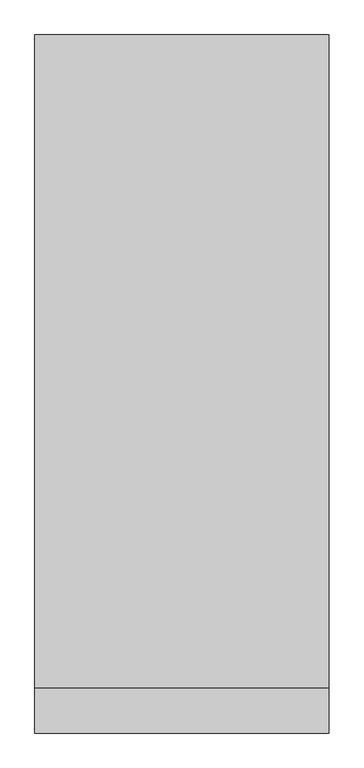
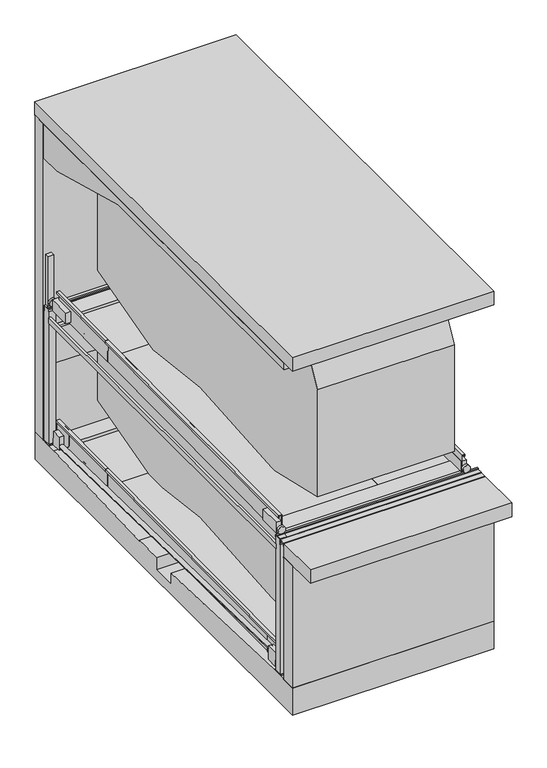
"""IFC4 building model written with IfcOpenShell, lengths in millimetres: proxy geometry, TrendVario_6100 : TrendVario_6100."""

from ifc_helpers import new_model, si_unit, point, frame, frame_2d, origin, place, context, project, spatial, polyline, circle_curve, trimmed, segment, composite_curve, outline, extrude, faceted_brep, source, transform, mapped, element, save
from ifc_brep_helpers import plane_surface, cylinder_surface, advanced_brep


def generic_models_6f618759(model_context):
    return source(origin(), model_context, "Body", "SolidModel", [
        extrude(outline(polyline([(0.0, -1500.0), (0.0, 0.0), (1170.0, 0.0), (1170.0, -1500.0), (0.0, -1500.0)])), frame((100.0, 4411.8759587, 12.9805913), z_axis=(0.0, -0.008726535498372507, 0.9999619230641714), x_axis=(0.0, 0.9999619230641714, 0.008726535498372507)), (0.0, 0.0, 1.0), 8.0),
        extrude(outline(polyline([(5343.3866911, 73.1117424), (5581.3776288, 75.1886579), (5581.7615964, 31.1903332), (5578.7617106, 31.1641536), (5578.4039226, 72.1625925), (5346.4127565, 70.1380362), (5346.7705444, 29.1395974), (5343.7706587, 29.1134178), (5343.3866911, 73.1117424)])), frame((100.0, 0.0, 0.0), z_axis=(1.0, 0.0, 0.0), x_axis=(0.0, 1.0, 0.0)), (0.0, 0.0, 1.0), 1500.0),
        extrude(outline(polyline([(320.0, 0.0), (320.0, -43.0), (290.0, -43.0), (290.0, -40.0), (317.0, -40.0), (317.0, -3.0), (0.0, -3.0), (0.0, 52.0), (47.0, 52.0), (47.0, 89.0), (49.9999999, 89.0), (49.9999999, 49.0), (2.9999999, 49.0), (2.9999999, 0.0), (320.0, 0.0)])), frame((100.0, 4412.3122854, -37.0175048), z_axis=(0.0, 0.9999619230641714, 0.008726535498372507), x_axis=(0.0, -0.008726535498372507, 0.9999619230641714)), (0.0, 0.0, 1.0), 1170.0),
        extrude(outline(composite_curve([segment(trimmed(circle_curve(frame_2d((-273.0, 50.2890841)), 6.0), [point((-273.0, 44.2890841))], [point((-273.0, 56.2890841))], False, "CARTESIAN"), True, "CONTINUOUS"), segment(trimmed(circle_curve(frame_2d((-273.0, 50.2890841)), 6.0), [point((-273.0, 56.2890841))], [point((-273.0, 44.2890841))], False, "CARTESIAN"), True, "CONTINUOUS")], self_intersect=False)), frame((0.0, 5774.7632152, 0.0), z_axis=(0.0, 1.0, 0.0), x_axis=(0.0, 0.0, 1.0)), (0.0, 0.0, 1.0), 150.0),
        extrude(outline(composite_curve([segment(trimmed(circle_curve(frame_2d((-273.0, 2650.0)), 6.0), [point((-267.0, 2650.0))], [point((-279.0, 2650.0))], False, "CARTESIAN"), True, "CONTINUOUS"), segment(trimmed(circle_curve(frame_2d((-273.0, 2650.0)), 6.0), [point((-279.0, 2650.0))], [point((-267.0, 2650.0))], False, "CARTESIAN"), True, "CONTINUOUS")], self_intersect=False)), frame((0.0, 5769.5664345, 0.0), z_axis=(0.0, 1.0, 0.0), x_axis=(0.0, 0.0, 1.0)), (0.0, 0.0, 1.0), 150.0),
        extrude(outline(composite_curve([segment(trimmed(circle_curve(frame_2d((-273.0, 2650.0)), 6.0), [point((-267.0, 2650.0))], [point((-279.0, 2650.0))], False, "CARTESIAN"), True, "CONTINUOUS"), segment(trimmed(circle_curve(frame_2d((-273.0, 2650.0)), 6.0), [point((-279.0, 2650.0))], [point((-267.0, 2650.0))], False, "CARTESIAN"), True, "CONTINUOUS")], self_intersect=False)), frame((0.0, -50.0, 0.0), z_axis=(0.0, 1.0, 0.0), x_axis=(0.0, 0.0, 1.0)), (0.0, 0.0, 1.0), 150.0),
        extrude(outline(composite_curve([segment(trimmed(circle_curve(frame_2d((-273.0, 50.0)), 6.0), [point((-273.0, 56.0))], [point((-273.0, 44.0))], False, "CARTESIAN"), True, "CONTINUOUS"), segment(trimmed(circle_curve(frame_2d((-273.0, 50.0)), 6.0), [point((-273.0, 44.0))], [point((-273.0, 56.0))], False, "CARTESIAN"), True, "CONTINUOUS")], self_intersect=False)), frame((0.0, -50.0, 0.0), z_axis=(0.0, 1.0, 0.0), x_axis=(0.0, 0.0, 1.0)), (0.0, 0.0, 1.0), 150.0),
        extrude(outline(composite_curve([segment(trimmed(circle_curve(frame_2d((145.0, 150.0)), 6.0), [point((139.0, 150.0))], [point((151.0, 150.0))], False, "CARTESIAN"), True, "CONTINUOUS"), segment(trimmed(circle_curve(frame_2d((145.0, 150.0)), 6.0), [point((151.0, 150.0))], [point((139.0, 150.0))], False, "CARTESIAN"), True, "CONTINUOUS")], self_intersect=False)), frame((0.0, 0.0, -2150.0), z_axis=(0.0, 0.0, 1.0), x_axis=(1.0, 0.0, 0.0)), (0.0, 0.0, 1.0), 150.0),
        extrude(outline(composite_curve([segment(trimmed(circle_curve(frame_2d((2555.0, 150.0)), 6.0), [point((2549.0, 150.0))], [point((2561.0, 150.0))], False, "CARTESIAN"), True, "CONTINUOUS"), segment(trimmed(circle_curve(frame_2d((2555.0, 150.0)), 6.0), [point((2561.0, 150.0))], [point((2549.0, 150.0))], False, "CARTESIAN"), True, "CONTINUOUS")], self_intersect=False)), frame((0.0, 0.0, -2150.0), z_axis=(0.0, 0.0, 1.0), x_axis=(1.0, 0.0, 0.0)), (0.0, 0.0, 1.0), 150.0),
        extrude(outline(composite_curve([segment(trimmed(circle_curve(frame_2d((2555.0, 5722.5588178)), 6.0), [point((2549.0, 5722.5588178))], [point((2561.0, 5722.5588178))], False, "CARTESIAN"), True, "CONTINUOUS"), segment(trimmed(circle_curve(frame_2d((2555.0, 5722.5588178)), 6.0), [point((2561.0, 5722.5588178))], [point((2549.0, 5722.5588178))], False, "CARTESIAN"), True, "CONTINUOUS")], self_intersect=False)), frame((0.0, 0.0, -2150.0), z_axis=(0.0, 0.0, 1.0), x_axis=(1.0, 0.0, 0.0)), (0.0, 0.0, 1.0), 150.0),
        extrude(outline(polyline([(320.0, 0.0), (3.0, 0.0), (3.0, -49.0), (49.9999999, -49.0), (49.9999999, -89.0), (47.0, -89.0), (47.0, -52.0), (0.0, -52.0), (0.0, 3.0), (317.0, 3.0), (317.0, 40.0), (290.0, 40.0), (290.0, 43.0), (320.0, 43.0), (320.0, 0.0)])), frame((2600.0, 237.7412679, -1960.4094164), z_axis=(0.0, 0.9999619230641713, 0.008726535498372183), x_axis=(0.0, -0.008726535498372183, 0.9999619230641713)), (0.0, 0.0, 1.0), 4178.0),
        extrude(outline(polyline([(1941.867435, 0.0), (1941.867435, -1000.0), (-1962.132565, -1000.0), (-1962.132565, 0.0), (1941.867435, 0.0)])), frame((1600.0, 2473.3523611, -1890.89763), z_axis=(0.0, -0.008726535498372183, 0.9999619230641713), x_axis=(0.0, 0.9999619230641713, 0.008726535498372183)), (0.0, 0.0, 1.0), 8.0),
        extrude(outline(polyline([(0.0, -136.0), (0.0, 0.0), (67.0, 0.0), (67.0, -136.0), (0.0, -136.0)])), frame((20.0, 5591.7992407, -1943.6900531), z_axis=(0.0, -0.008726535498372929, 0.9999619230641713), x_axis=(1.0, 0.0, 0.0)), (0.0, 0.0, 1.0), 195.0),
        extrude(outline(polyline([(5613.3985296, -1668.4910874), (5616.1473883, -1983.4790932), (5481.1525287, -1984.6571755), (5344.9795868, -1850.8403982), (5342.7979529, -1600.8499174), (5582.7888144, -1598.7555489), (5583.3996719, -1668.7528835), (5613.3985296, -1668.4910874)])), frame((87.0, 0.0, 0.0), z_axis=(1.0, 0.0, 0.0), x_axis=(0.0, 1.0, 0.0)), (0.0, 0.0, 1.0), 10.0),
        extrude(outline(polyline([(0.0, -1500.0), (0.0, 0.0), (1170.0, 0.0), (1170.0, -1500.0), (0.0, -1500.0)])), frame((100.0, 4415.1458963, -1873.955505), z_axis=(0.0, -0.008726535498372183, 0.9999619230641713), x_axis=(0.0, 0.9999619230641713, 0.008726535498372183)), (0.0, 0.0, 1.0), 8.0),
        extrude(outline(polyline([(5346.6566288, -1813.8243539), (5584.6475665, -1811.7474385), (5585.031534, -1855.7457631), (5582.0316483, -1855.7719427), (5581.6738603, -1814.7735039), (5349.6826942, -1816.7980601), (5350.0404821, -1857.7964989), (5347.0405963, -1857.8226786), (5346.6566288, -1813.8243539)])), frame((100.0, 0.0, 0.0), z_axis=(1.0, 0.0, 0.0), x_axis=(0.0, 1.0, 0.0)), (0.0, 0.0, 1.0), 1500.0),
        extrude(outline(polyline([(320.0, 0.0), (320.0, -43.0), (290.0, -43.0), (290.0, -40.0), (317.0, -40.0), (317.0, -3.0), (0.0, -3.0), (0.0, 52.0), (47.0, 52.0), (47.0, 89.0), (50.0, 89.0), (50.0, 49.0), (3.0, 49.0), (3.0, 0.0), (320.0, 0.0)])), frame((100.0, 4415.5822231, -1923.9536012), z_axis=(0.0, 0.9999619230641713, 0.008726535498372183), x_axis=(0.0, -0.008726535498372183, 0.9999619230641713)), (0.0, 0.0, 1.0), 1170.0),
        extrude(outline(polyline([(320.0, 0.0), (3.0, 0.0), (3.0, -49.0), (49.9999999, -49.0), (49.9999999, -89.0), (47.0, -89.0), (47.0, -52.0), (0.0, -52.0), (0.0, 3.0), (317.0, 3.0), (317.0, 40.0), (290.0, 40.0), (290.0, 43.0), (320.0, 43.0), (320.0, 0.0)])), frame((2600.0, 232.7875414, -73.2083418), z_axis=(0.0, 0.9999619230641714, 0.008726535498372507), x_axis=(0.0, -0.008726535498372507, 0.9999619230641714)), (0.0, 0.0, 1.0), 4178.0),
        extrude(outline(polyline([(1941.867435, 0.0), (1941.867435, -1000.0), (-1962.132565, -1000.0), (-1962.132565, 0.0), (1941.867435, 0.0)])), frame((1600.0, 2468.3986345, -3.6965555), z_axis=(0.0, -0.008726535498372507, 0.9999619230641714), x_axis=(0.0, 0.9999619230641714, 0.008726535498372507)), (0.0, 0.0, 1.0), 8.0),
        extrude(outline(composite_curve([segment(trimmed(circle_curve(frame_2d((145.0, 5722.5588178)), 6.0), [point((139.0, 5722.5588178))], [point((151.0, 5722.5588178))], False, "CARTESIAN"), True, "CONTINUOUS"), segment(trimmed(circle_curve(frame_2d((145.0, 5722.5588178)), 6.0), [point((151.0, 5722.5588178))], [point((139.0, 5722.5588178))], False, "CARTESIAN"), True, "CONTINUOUS")], self_intersect=False)), frame((0.0, 0.0, -2150.0), z_axis=(0.0, 0.0, 1.0), x_axis=(1.0, 0.0, 0.0)), (0.0, 0.0, 1.0), 150.0),
        extrude(outline(polyline([(5999.9581167, -2000.0), (5999.9581167, -2400.0), (-200.0, -2400.0), (-200.0, -2000.0), (250.0, -2000.0), (2725.0057083, -2086.4291038), (2725.0057083, -2247.5791163), (3075.0057083, -2247.5791163), (3075.0057083, -2072.4602645), (3474.9676304, -2058.4932864), (3474.9676304, -2072.4602645), (5549.9581167, -2000.0), (5999.9581167, -2000.0)])), frame((0.0, 0.0, 0.0), z_axis=(1.0, 0.0, 0.0), x_axis=(0.0, 1.0, 0.0)), (0.0, 0.0, 1.0), 2799.0),
        extrude(outline(polyline([(0.0, 5671.7632152), (30.0, 5671.7632152), (30.0, 200.0), (0.0, 200.0), (0.0, 5671.7632152)])), frame((0.0, 0.0, -200.0), z_axis=(0.0, 0.0, 1.0), x_axis=(1.0, 0.0, 0.0)), (0.0, 0.0, 1.0), 80.0),
        extrude(outline(polyline([(164.0, 210.0), (164.0, 90.0), (0.0, 90.0), (0.0, 210.0), (164.0, 210.0)])), frame((0.0, 0.0, -2000.0), z_axis=(0.0, 0.0, 1.0), x_axis=(1.0, 0.0, 0.0)), (0.0, 0.0, 1.0), 18.0),
        extrude(outline(polyline([(164.0, 5784.7632152), (164.0, 5661.7632152), (0.0, 5661.7632152), (0.0, 5784.7632152), (164.0, 5784.7632152)])), frame((0.0, 0.0, -2000.0), z_axis=(0.0, 0.0, 1.0), x_axis=(1.0, 0.0, 0.0)), (0.0, 0.0, 1.0), 18.0),
        extrude(outline(polyline([(2536.0, 5779.5664345), (2700.0, 5779.5664345), (2700.0, 5659.5664345), (2536.0, 5659.5664345), (2536.0, 5779.5664345)])), frame((0.0, 0.0, -2000.0), z_axis=(0.0, 0.0, 1.0), x_axis=(1.0, 0.0, 0.0)), (0.0, 0.0, 1.0), 18.0),
        extrude(outline(polyline([(2536.0, 90.0), (2536.0, 210.0), (2700.0, 210.0), (2700.0, 90.0), (2536.0, 90.0)])), frame((0.0, 0.0, -2000.0), z_axis=(0.0, 0.0, 1.0), x_axis=(1.0, 0.0, 0.0)), (0.0, 0.0, 1.0), 18.0),
        extrude(outline(composite_curve([segment(trimmed(circle_curve(frame_2d((-34.8939913, -3.2601795)), 30.0), [point((-64.8939913, -3.2601795))], [point((-4.8939913, -3.2601795))], False, "CARTESIAN"), True, "CONTINUOUS"), segment(trimmed(circle_curve(frame_2d((-34.8939913, -3.2601795)), 30.0), [point((-4.8939913, -3.2601795))], [point((-64.8939913, -3.2601795))], False, "CARTESIAN"), True, "CONTINUOUS")], self_intersect=False)), frame((20.0, 5455.4339411, -1902.4242792), z_axis=(0.0, -0.9997806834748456, 0.020942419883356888), x_axis=(-1.0, 0.0, 0.0)), (0.0, 0.0, 1.0), 5042.7986422),
        extrude(outline(composite_curve([segment(trimmed(circle_curve(frame_2d((39.6709454, 48.2295861)), 30.0), [point((9.6709454, 48.2295861))], [point((69.6709454, 48.2295861))], False, "CARTESIAN"), True, "CONTINUOUS"), segment(trimmed(circle_curve(frame_2d((39.6709454, 48.2295861)), 30.0), [point((69.6709454, 48.2295861))], [point((9.6709454, 48.2295861))], False, "CARTESIAN"), True, "CONTINUOUS")], self_intersect=False)), frame((2603.0, 5455.8267219, -1947.4325068), z_axis=(0.0, -0.9997806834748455, 0.020942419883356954), x_axis=(1.0, 0.0, 0.0)), (0.0, 0.0, 1.0), 5043.1761415),
        faceted_brep([(2670.0, 210.0, -120.0), (2670.0, 210.0, -200.0), (2700.0, 210.0, -200.0), (2700.0, 210.0, -120.0), (2700.0, 5659.5664345, -120.0), (2700.0, 5659.5664345, -200.0), (2673.0, 5659.5664345, -200.0), (2673.0, 5659.5664345, -120.0), (2670.0, 232.7875088, -120.0), (2670.0, 232.7875088, -200.0), (2670.0, 5656.8533035, -120.0), (2670.0, 5635.4173681, -200.0), (2670.0, 254.2234442, -200.0), (2673.0, 232.7875088, -200.0), (2673.0, 254.2234442, -200.0), (2673.0, 5635.4173681, -200.0), (2673.0, 5656.8533035, -120.0), (2673.0, 232.7875088, -120.0)], [[[0, 1, 2, 3]], [[4, 5, 6, 7]], [[1, 0, 8, 9]], [[10, 11, 12, 8]], [[2, 1, 9, 13, 14, 12, 11, 15, 6, 5]], [[3, 2, 5, 4]], [[0, 3, 4, 7, 16, 10, 8]], [[15, 16, 7, 6]], [[16, 15, 11, 10]], [[17, 14, 13]], [[8, 17, 13, 9]], [[17, 8, 12, 14]]]),
        extrude(outline(polyline([(2700.0, 5669.5664345), (2600.0, 5669.5664345), (2600.0, 5769.5664345), (2700.0, 5769.5664345), (2700.0, 5669.5664345)])), frame((0.0, 0.0, -2000.0), z_axis=(0.0, 0.0, 1.0), x_axis=(1.0, 0.0, 0.0)), (0.0, 0.0, 1.0), 2000.0),
        extrude(outline(polyline([(237.7566323, -1940.8501873), (236.1472757, -1756.4361785), (413.7566323, -1756.4361785), (413.7566323, -1939.3142585), (237.7566323, -1940.8501873)])), frame((2613.0, 0.0, 0.0), z_axis=(1.0, 0.0, 0.0), x_axis=(0.0, 1.0, 0.0)), (0.0, 0.0, 1.0), 70.0),
        extrude(outline(polyline([(237.7412679, -1960.4094164), (235.9626972, -1756.6053926), (413.7412679, -1756.6053926), (413.7412679, -1958.8734877), (237.7412679, -1960.4094164)])), frame((20.0, 0.0, 0.0), z_axis=(1.0, 0.0, 0.0), x_axis=(0.0, 1.0, 0.0)), (0.0, 0.0, 1.0), 70.0),
        extrude(outline(polyline([(0.0, -136.0), (0.0, 0.0), (67.0, 0.0), (67.0, -136.0), (0.0, -136.0)])), frame((2610.0, 5591.7992407, -1943.6900531), z_axis=(0.0, -0.008726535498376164, 0.9999619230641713), x_axis=(1.0, 0.0, 0.0)), (0.0, 0.0, 1.0), 195.0),
        extrude(outline(polyline([(2600.0, 200.0), (2700.0, 200.0), (2700.0, 100.0), (2600.0, 100.0), (2600.0, 200.0)])), frame((0.0, 0.0, -2000.0), z_axis=(0.0, 0.0, 1.0), x_axis=(1.0, 0.0, 0.0)), (0.0, 0.0, 1.0), 2000.0),
        extrude(outline(composite_curve([segment(polyline([(5620.0145776, -585.9914336), (5620.0145776, -1335.9999998), (5618.0221903, -1335.9999998), (5618.0221903, -1527.7646518), (4313.3699728, -1877.3451599)]), True, "CONTINUOUS"), segment(trimmed(circle_curve(frame_2d((4247.6299354, -1632.0)), 254.0), [point((4313.3699728, -1877.3451599))], [point((4224.7221662, -1884.9648871))], False, "CARTESIAN"), True, "CONTINUOUS"), segment(polyline([(4224.7221662, -1884.9648871), (3145.3807126, -1751.0), (1424.180165, -1884.6085614)]), True, "CONTINUOUS"), segment(trimmed(circle_curve(frame_2d((1397.6299354, -1632.0)), 254.0), [point((1424.180165, -1884.6085614))], [point((1340.4923675, -1879.4899965))], False, "CARTESIAN"), True, "CONTINUOUS"), segment(polyline([(1340.4923675, -1879.4899965), (320.456461, -1643.9961518), (320.456461, -689.5033287), (622.3673675, -136.0), (4020.0450351, -135.9999998), (5620.0145776, -585.9914336)]), True, "CONTINUOUS")], self_intersect=False)), frame((650.0, 0.0, 0.0), z_axis=(1.0, 0.0, 0.0), x_axis=(0.0, 1.0, 0.0)), (0.0, 0.0, 1.0), 1900.0),
        extrude(outline(polyline([(2799.0, -200.0), (0.0, -200.0), (0.0, 0.0), (2799.0, 0.0), (2799.0, -200.0)])), frame((0.0, 0.0, -2000.0), z_axis=(0.0, 0.0, 1.0), x_axis=(1.0, 0.0, 0.0)), (0.0, 0.0, 1.0), 1800.0),
        faceted_brep([(100.0, 4412.2895056, -1603.966424), (100.0, 4415.0558174, -1920.9543536), (149.0, 4415.0558174, -1920.9543536), (149.0, 4414.6456702, -1873.9561432), (189.0, 4414.6456702, -1873.9561432), (189.0, 4414.6718498, -1876.956029), (152.0, 4414.6718498, -1876.956029), (152.0, 4415.081997, -1923.9542393), (97.0, 4415.081997, -1923.9542393), (97.0, 4412.3156852, -1606.9663097), (60.0, 4412.3156852, -1606.9663097), (60.0, 4412.5513017, -1633.9652817), (57.0, 4412.5513017, -1633.9652817), (57.0, 4412.2895056, -1603.966424), (100.0, 237.741276, -1960.4093395), (100.0, 234.9487847, -1640.4215242), (57.0, 234.9487847, -1640.4215242), (57.0, 235.2105807, -1670.4203818), (60.0, 235.2105807, -1670.4203818), (60.0, 234.9749643, -1643.4214099), (97.0, 234.9749643, -1643.4214099), (97.0, 237.741276, -1960.4093395), (100.0, 337.7374683, -1959.536686), (100.0, 337.7112887, -1956.5368002), (149.0, 337.7112887, -1956.5368002), (149.0, 337.3011416, -1909.5385898), (189.0, 337.3011416, -1909.5385898), (189.0, 337.3273212, -1912.5384756), (152.0, 337.3273212, -1912.5384756), (152.0, 337.7374683, -1959.536686)], [[[0, 1, 2, 3, 4, 5, 6, 7, 8, 9, 10, 11, 12, 13]], [[14, 15, 16, 17, 18, 19, 20, 21]], [[1, 0, 15, 14, 22, 23]], [[2, 1, 23, 24]], [[3, 2, 24, 25]], [[4, 3, 25, 26]], [[5, 4, 26, 27]], [[6, 5, 27, 28]], [[7, 6, 28, 29]], [[8, 7, 29, 22, 14, 21]], [[9, 8, 21, 20]], [[10, 9, 20, 19]], [[11, 10, 19, 18]], [[12, 11, 18, 17]], [[13, 12, 17, 16]], [[0, 13, 16, 15]], [[23, 22, 29, 28, 27, 26, 25, 24]]]),
        extrude(outline(polyline([(556.8174373, -1957.6248809), (237.7412679, -1960.4094164), (235.9626972, -1756.6053926), (322.913076, -1669.6550138), (556.8174373, -1667.6137613), (556.8174373, -1957.6248809)])), frame((90.0, 0.0, 0.0), z_axis=(1.0, 0.0, 0.0), x_axis=(0.0, 1.0, 0.0)), (0.0, 0.0, 1.0), 10.0),
        extrude(outline(polyline([(342.6444987, -1649.9235911), (556.8174373, -1648.0545322), (556.8174373, -1938.0656517), (237.7412679, -1940.8501873), (236.1319113, -1756.4361785), (342.6444987, -1649.9235911)])), frame((2603.0, 0.0, 0.0), z_axis=(1.0, 0.0, 0.0), x_axis=(0.0, 1.0, 0.0)), (0.0, 0.0, 1.0), 10.0),
        extrude(outline(polyline([(5582.7713613, -1596.755625), (5583.3996719, -1668.7528835), (5613.3985296, -1668.4910874), (5616.1473883, -1983.4790932), (5481.1525287, -1984.6571755), (5344.9795868, -1850.8403982), (5342.7804998, -1598.8499935), (5582.7713613, -1596.755625)])), frame((2600.0, 0.0, 0.0), z_axis=(1.0, 0.0, 0.0), x_axis=(0.0, 1.0, 0.0)), (0.0, 0.0, 1.0), 10.0),
        extrude(outline(polyline([(2600.0, 511.2945081), (2600.0, 241.2945081), (100.0, 241.2945081), (100.0, 511.2945081), (2600.0, 511.2945081)])), frame((0.0, 0.0, -1888.4610204), z_axis=(0.0, 0.0, 1.0), x_axis=(1.0, 0.0, 0.0)), (0.0, 0.0, 1.0), 30.0),
        extrude(outline(polyline([(319.9999232, -43.0), (2.9999232, -43.0), (2.9999232, -92.0), (49.9999231, -92.0), (49.9999231, -132.0), (46.9999232, -132.0), (46.9999232, -95.0), (-7.68e-05, -95.0), (-7.68e-05, -40.0), (316.9999232, -40.0), (316.9999232, -3.0), (289.9999232, -3.0), (289.9999232, 0.0), (319.9999232, 0.0), (319.9999232, -43.0)])), frame((2643.0, 4415.5821906, -1923.9498742), z_axis=(0.0, 0.9999619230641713, 0.008726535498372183), x_axis=(0.0, -0.008726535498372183, 0.9999619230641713)), (0.0, 0.0, 1.0), 1183.1966017),
        extrude(outline(polyline([(100.4126792, 0.0), (100.4126792, -1170.5002127), (-899.5873208, -1170.5002127), (-899.5873208, 0.0), (100.4126792, 0.0)])), frame((2499.5873208, 5585.1013463, -1863.7454585), z_axis=(0.0, -0.008726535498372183, 0.9999619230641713), x_axis=(1.0, 0.0, 0.0)), (0.0, 0.0, 1.0), 8.0),
        extrude(outline(polyline([(5587.3833555, -1811.7198364), (5587.767323, -1855.718161), (5584.7674373, -1855.7443406), (5584.4096493, -1814.7459018), (5352.4184831, -1816.770458), (5352.7762711, -1857.7688968), (5349.7763853, -1857.7950764), (5349.3924178, -1813.7967518), (5587.3833555, -1811.7198364)])), frame((1600.0, 0.0, 0.0), z_axis=(1.0, 0.0, 0.0), x_axis=(0.0, 1.0, 0.0)), (0.0, 0.0, 1.0), 1000.0),
        extrude(outline(polyline([(2038.9337722, 0.0), (2038.9337722, -1500.0), (-1864.3763713, -1500.0), (-1864.3763713, 0.0), (2038.9337722, 0.0)])), frame((1600.0, 2550.3403211, -1890.2294167), z_axis=(0.0, -0.008726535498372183, 0.9999619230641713), x_axis=(0.0, -0.9999619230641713, -0.008726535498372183)), (0.0, 0.0, 1.0), 8.0),
        extrude(outline(polyline([(555.3027268, 0.3516465), (235.3027268, -2.4409511), (235.3027268, 157.5651414), (555.3027268, 160.3577391), (555.3027268, 0.3516465)])), frame((30.0, 0.0, 0.0), z_axis=(1.0, 0.0, 0.0), x_axis=(0.0, 1.0, 0.0)), (0.0, 0.0, 1.0), 70.0),
        extrude(outline(polyline([(5627.0221903, 0.3516465), (5307.0221903, -2.4409511), (5307.0221903, 157.5651414), (5627.0221903, 160.3577391), (5627.0221903, 0.3516465)])), frame((30.0, 0.0, 0.0), z_axis=(1.0, 0.0, 0.0), x_axis=(0.0, 1.0, 0.0)), (0.0, 0.0, 1.0), 70.0),
        extrude(outline(composite_curve([segment(trimmed(circle_curve(frame_2d((73.3516465, 66.0)), 50.0), [point((73.3516465, 16.0))], [point((73.3516465, 116.0))], False, "CARTESIAN"), True, "CONTINUOUS"), segment(trimmed(circle_curve(frame_2d((73.3516465, 66.0)), 50.0), [point((73.3516465, 116.0))], [point((73.3516465, 16.0))], False, "CARTESIAN"), True, "CONTINUOUS")], self_intersect=False)), frame((0.0, 165.3027268, 0.0), z_axis=(0.0, 1.0, 0.0), x_axis=(0.0, 0.0, 1.0)), (0.0, 0.0, 1.0), 35.0),
        extrude(outline(composite_curve([segment(trimmed(circle_curve(frame_2d((73.3516465, 66.0)), 15.0), [point((73.3516465, 51.0))], [point((73.3516465, 81.0))], False, "CARTESIAN"), True, "CONTINUOUS"), segment(trimmed(circle_curve(frame_2d((73.3516465, 66.0)), 15.0), [point((73.3516465, 81.0))], [point((73.3516465, 51.0))], False, "CARTESIAN"), True, "CONTINUOUS")], self_intersect=False)), frame((0.0, 200.3027268, 0.0), z_axis=(0.0, 1.0, 0.0), x_axis=(0.0, 0.0, 1.0)), (0.0, 0.0, 1.0), 35.0),
        extrude(outline(composite_curve([segment(trimmed(circle_curve(frame_2d((73.3516465, 66.0)), 50.0), [point((73.3516465, 16.0))], [point((73.3516465, 116.0))], False, "CARTESIAN"), True, "CONTINUOUS"), segment(trimmed(circle_curve(frame_2d((73.3516465, 66.0)), 50.0), [point((73.3516465, 116.0))], [point((73.3516465, 16.0))], False, "CARTESIAN"), True, "CONTINUOUS")], self_intersect=False)), frame((0.0, 5672.0221903, 0.0), z_axis=(0.0, 1.0, 0.0), x_axis=(0.0, 0.0, 1.0)), (0.0, 0.0, 1.0), 35.0),
        extrude(outline(composite_curve([segment(trimmed(circle_curve(frame_2d((73.3516465, 66.0)), 15.0), [point((73.3516465, 51.0))], [point((73.3516465, 81.0))], False, "CARTESIAN"), True, "CONTINUOUS"), segment(trimmed(circle_curve(frame_2d((73.3516465, 66.0)), 15.0), [point((73.3516465, 81.0))], [point((73.3516465, 51.0))], False, "CARTESIAN"), True, "CONTINUOUS")], self_intersect=False)), frame((0.0, 5627.0221903, 0.0), z_axis=(0.0, 1.0, 0.0), x_axis=(0.0, 0.0, 1.0)), (0.0, 0.0, 1.0), 45.0),
        extrude(outline(polyline([(320.0, 0.0), (320.0, -43.0), (290.0, -43.0), (290.0, -40.0), (317.0, -40.0), (317.0, -3.0), (0.0, -3.0), (0.0, 52.0), (47.0, 52.0), (47.0, 89.0), (50.0, 89.0), (50.0, 49.0), (3.0, 49.0), (3.0, 0.0), (320.0, 0.0)])), frame((100.0, 232.7875088, -73.2046149), z_axis=(0.0, 0.9999619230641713, 0.008726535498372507), x_axis=(0.0, -0.008726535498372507, 0.9999619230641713)), (0.0, 0.0, 1.0), 4177.4997873),
        extrude(outline(polyline([(555.3027268, 0.3516465), (235.3027268, -2.4409511), (235.3027268, 157.5651414), (555.3027268, 160.3577391), (555.3027268, 0.3516465)])), frame((2600.0, 0.0, 0.0), z_axis=(1.0, 0.0, 0.0), x_axis=(0.0, 1.0, 0.0)), (0.0, 0.0, 1.0), 70.0),
        extrude(outline(composite_curve([segment(trimmed(circle_curve(frame_2d((73.3516465, 2635.0)), 50.0), [point((73.3516465, 2685.0))], [point((73.3516465, 2585.0))], False, "CARTESIAN"), True, "CONTINUOUS"), segment(trimmed(circle_curve(frame_2d((73.3516465, 2635.0)), 50.0), [point((73.3516465, 2585.0))], [point((73.3516465, 2685.0))], False, "CARTESIAN"), True, "CONTINUOUS")], self_intersect=False)), frame((0.0, 165.3027268, 0.0), z_axis=(0.0, 1.0, 0.0), x_axis=(0.0, 0.0, 1.0)), (0.0, 0.0, 1.0), 35.0),
        extrude(outline(composite_curve([segment(trimmed(circle_curve(frame_2d((73.3516465, 2635.0)), 15.0), [point((73.3516465, 2650.0))], [point((73.3516465, 2620.0))], False, "CARTESIAN"), True, "CONTINUOUS"), segment(trimmed(circle_curve(frame_2d((73.3516465, 2635.0)), 15.0), [point((73.3516465, 2620.0))], [point((73.3516465, 2650.0))], False, "CARTESIAN"), True, "CONTINUOUS")], self_intersect=False)), frame((0.0, 200.3027268, 0.0), z_axis=(0.0, 1.0, 0.0), x_axis=(0.0, 0.0, 1.0)), (0.0, 0.0, 1.0), 35.0),
        extrude(outline(polyline([(0.0, 5677.3612215), (0.0, 5702.3612215), (2799.0, 5702.3612215), (2799.0, 5677.3612215), (0.0, 5677.3612215)])), frame((0.0, 0.0, 8.0), z_axis=(0.0, 0.0, 1.0), x_axis=(1.0, 0.0, 0.0)), (0.0, 0.0, 1.0), 15.0),
        extrude(outline(polyline([(5778.1588219, 0.0), (5778.1588219, -80.0), (5775.1766811, -80.0), (5775.1766811, -3.0), (5669.5588219, -3.0), (5669.5588219, -30.0), (5666.5588219, -30.0), (5666.5588219, 0.0), (5778.1588219, 0.0)])), frame((0.0, 0.0, 0.0), z_axis=(1.0, 0.0, 0.0), x_axis=(0.0, 1.0, 0.0)), (0.0, 0.0, 1.0), 2799.0),
        extrude(outline(composite_curve([segment(trimmed(circle_curve(frame_2d((73.3516465, 2635.0)), 50.0), [point((73.3516465, 2685.0))], [point((73.3516465, 2585.0))], False, "CARTESIAN"), True, "CONTINUOUS"), segment(trimmed(circle_curve(frame_2d((73.3516465, 2635.0)), 50.0), [point((73.3516465, 2585.0))], [point((73.3516465, 2685.0))], False, "CARTESIAN"), True, "CONTINUOUS")], self_intersect=False)), frame((0.0, 5672.0221903, 0.0), z_axis=(0.0, 1.0, 0.0), x_axis=(0.0, 0.0, 1.0)), (0.0, 0.0, 1.0), 35.0),
        extrude(outline(composite_curve([segment(trimmed(circle_curve(frame_2d((73.3516465, 2635.0)), 15.0), [point((73.3516465, 2650.0))], [point((73.3516465, 2620.0))], False, "CARTESIAN"), True, "CONTINUOUS"), segment(trimmed(circle_curve(frame_2d((73.3516465, 2635.0)), 15.0), [point((73.3516465, 2620.0))], [point((73.3516465, 2650.0))], False, "CARTESIAN"), True, "CONTINUOUS")], self_intersect=False)), frame((0.0, 5627.0221903, 0.0), z_axis=(0.0, 1.0, 0.0), x_axis=(0.0, 0.0, 1.0)), (0.0, 0.0, 1.0), 45.0),
        extrude(outline(polyline([(5627.0221903, 0.3516465), (5307.0221903, -2.4409511), (5307.0221903, 157.5651414), (5627.0221903, 160.3577391), (5627.0221903, 0.3516465)])), frame((2600.0, 0.0, 0.0), z_axis=(1.0, 0.0, 0.0), x_axis=(0.0, 1.0, 0.0)), (0.0, 0.0, 1.0), 70.0),
        extrude(outline(polyline([(506.3333687, 1.7621074), (506.6824301, -38.2363695), (503.6825444, -38.2625491), (503.3596625, -1.263958), (261.7372106, -3.3725652), (105.9840281, -46.5667455), (112.3977491, -69.6938764), (133.5976191, -63.8146321), (134.3993342, -66.7055235), (110.3085729, -73.3864829), (102.2914216, -44.4775693), (261.3160886, -0.376126), (506.3333687, 1.7621074)])), frame((100.0, 0.0, 0.0), z_axis=(1.0, 0.0, 0.0), x_axis=(0.0, 1.0, 0.0)), (0.0, 0.0, 1.0), 2500.0),
        extrude(outline(polyline([(319.9719043, 0.0), (2.9719044, 0.0), (2.9719044, -49.0), (49.9719044, -49.0), (49.9719044, -89.0), (46.9719043, -89.0), (46.9719043, -52.0), (-0.0280957, -52.0), (-0.0280957, 3.0), (316.9719043, 3.0), (316.9719043, 40.0), (289.9719043, 40.0), (289.9719043, 43.0), (319.9719043, 43.0), (319.9719043, 0.0)])), frame((2600.0, 4410.6284234, -36.7451495), z_axis=(0.0, 0.9999619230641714, 0.008726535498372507), x_axis=(0.0, -0.008726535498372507, 0.9999619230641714)), (0.0, 0.0, 1.0), 1171.6814212),
        extrude(outline(polyline([(100.4126792, 0.0), (100.4126792, -1167.2107697), (-899.5873208, -1167.2107697), (-899.5873208, 0.0), (100.4126792, 0.0)])), frame((2499.5873208, 5576.8582614, 23.4305607), z_axis=(0.0, -0.008726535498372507, 0.9999619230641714), x_axis=(1.0, 0.0, 0.0)), (0.0, 0.0, 1.0), 8.0),
        extrude(outline(polyline([(5579.1402706, 75.4561828), (5579.5242381, 31.4578582), (5576.5243524, 31.4316786), (5576.1665644, 72.4301175), (5344.1753983, 70.4055612), (5344.5331862, 29.4071224), (5341.5333004, 29.3809428), (5341.1493329, 73.3792674), (5579.1402706, 75.4561828)])), frame((1600.0, 0.0, 0.0), z_axis=(1.0, 0.0, 0.0), x_axis=(0.0, 1.0, 0.0)), (0.0, 0.0, 1.0), 1000.0),
        extrude(outline(polyline([(2038.9337722, 0.0), (2038.9337722, -1500.0), (-1864.3763713, -1500.0), (-1864.3763713, 0.0), (2038.9337722, 0.0)])), frame((1600.0, 2545.3865539, -3.0246921), z_axis=(0.0, -0.008726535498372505, 0.9999619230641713), x_axis=(0.0, -0.9999619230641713, -0.008726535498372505)), (0.0, 0.0, 1.0), 8.0),
        extrude(outline(polyline([(0.0, -630.5625149), (0.0, 0.0), (2799.0, 0.0), (2799.0, -630.5625149), (0.0, -630.5625149)])), frame((0.0, 0.0, -200.0), z_axis=(0.0, 0.0, 1.0), x_axis=(1.0, 0.0, 0.0)), (0.0, 0.0, 1.0), 200.0),
        faceted_brep([(100.0, 200.0, 8.0), (0.0, 200.0, 8.0), (0.0, 100.0, 8.0), (100.0, 100.0, 8.0), (100.0, 200.0, -2000.0), (100.0, 100.0, -2000.0), (0.0, 100.0, -2000.0), (0.0, 200.0, -2000.0), (0.0, 100.0, -1.0), (0.0, 100.0, 0.0), (100.0, 100.0, -1.0), (100.0, 100.0, 0.0)], [[[0, 1, 2, 3]], [[4, 5, 6, 7]], [[1, 0, 4, 7]], [[2, 1, 7, 6, 8, 9]], [[3, 2, 9, 8, 6, 5, 10, 11]], [[0, 3, 11, 10, 5, 4]]]),
        faceted_brep([(2799.0, 5467.6439919, 2151.0), (2799.0, 3999.9276592, 2551.0062257), (0.0, 3999.9505029, 2551.0), (0.0, 5467.6439919, 2151.0), (2799.0, 5799.9276592, 2151.0), (2799.0, 5799.9276592, 2651.0), (2799.0, 0.0, 2651.0), (2799.0, 0.0, 2551.0), (0.0, 5799.9276592, 2651.0), (0.0, 5799.9276592, 2151.0), (0.0, 0.0, 2551.0), (0.0, 0.0, 2651.0)], [[[0, 1, 2, 3]], [[4, 5, 6, 7, 1, 0]], [[8, 9, 3, 2, 10, 11]], [[5, 4, 9, 8]], [[6, 5, 8, 11]], [[9, 4, 0, 3]], [[7, 10, 2, 1]], [[7, 6, 11, 10]]]),
        faceted_brep([(97.0, 5714.7632152, -1.0), (97.0, 5771.7632152, -1.0), (100.0, 5771.7632152, -1.0), (100.0, 5711.7632152, -1.0), (22.0, 5711.7632152, -1.0), (22.0, 5714.7632152, -1.0), (100.0, 5771.7632152, 0.0), (97.0, 5771.7632152, 0.0), (97.0, 5714.7632152, 0.0), (22.0, 5714.7632152, 0.0), (22.0, 5711.7632152, 0.0), (100.0, 5711.7632152, 0.0), (97.0, 5714.7632152, 0.0), (97.0, 5774.7632152, 740.0), (22.0, 5774.7632152, 740.0), (22.0, 5714.7632152, 740.0), (97.0, 5714.7632152, 740.0), (22.0, 5774.7632152, 0.0), (97.0, 5774.7632152, 0.0), (22.0, 5771.7632152, 0.0)], [[[0, 1, 2, 3, 4, 5]], [[6, 7, 8, 9, 10, 11]], [[3, 2, 6, 11]], [[1, 0, 12, 7]], [[13, 14, 15, 16]], [[17, 18, 7, 12, 9, 19]], [[13, 16, 8, 7, 18]], [[16, 15, 9, 8]], [[15, 14, 17, 19, 9]], [[14, 13, 18, 17]], [[2, 1, 7, 6]], [[5, 9, 12, 0]], [[5, 4, 10, 9]], [[4, 3, 11, 10]]]),
        faceted_brep([(100.0, 5671.7632152, -3.0), (100.0, 5774.7632152, -3.0), (0.0, 5774.7632152, -3.0), (0.0, 5671.7632152, -3.0), (100.0, 5671.7632152, -2000.0), (0.0, 5671.7632152, -2000.0), (0.0, 5774.7632152, -2000.0), (100.0, 5774.7632152, -2000.0)], [[[0, 1, 2, 3]], [[4, 5, 6, 7]], [[1, 0, 4, 7]], [[2, 1, 7, 6]], [[3, 2, 6, 5]], [[0, 3, 5, 4]]]),
        advanced_brep(
        [(650.0, 5620.0145776, 382.7692068), (650.0, 4313.3699728, 32.6548401), (650.0, 4224.7221662, 25.0351129), (650.0, 3145.3807126, 159.0), (650.0, 1424.180165, 25.3914386), (650.0, 1340.4923675, 30.5100035), (650.0, 320.456461, 266.0038482), (650.0, 320.456461, 1835.4966713), (650.0, 649.6400948, 2439.0), (650.0, 3664.4894819, 2439.0000002), (650.0, 5620.0145794, 1889.0085665), (2550.0, 320.456461, 266.0038482), (2550.0, 1340.4923675, 30.5100035), (2550.0, 1424.180165, 25.3914386), (2550.0, 3145.3807126, 159.0), (2550.0, 4224.7221662, 25.0351129), (2550.0, 4313.3699728, 32.6548401), (2550.0, 5620.0145776, 382.7692068), (2550.0, 5620.0145794, 1889.0085665), (2550.0, 3664.4894819, 2439.0000002), (2550.0, 649.6400948, 2439.0), (2550.0, 320.456461, 1835.4966713)],
        [
            (0, 1),
            (1, 2, circle_curve(frame((650.0, 4247.6299354, 278.0), z_axis=(-1.0, 0.0, 0.0), x_axis=(0.0, 1.0, 0.0)), 254.0)),
            (2, 3),
            (3, 4),
            (4, 5, circle_curve(frame((650.0, 1397.6299354, 278.0), z_axis=(-1.0, 0.0, 0.0), x_axis=(0.0, 1.0, 0.0)), 254.0)),
            (5, 6),
            (6, 7),
            (7, 8),
            (8, 9),
            (9, 10),
            (10, 0),
            (11, 12),
            (12, 13, circle_curve(frame((2550.0, 1397.6299354, 278.0), z_axis=(1.0, 0.0, 0.0), x_axis=(0.0, 1.0, 0.0)), 254.0)),
            (13, 14),
            (14, 15),
            (15, 16, circle_curve(frame((2550.0, 4247.6299354, 278.0), z_axis=(1.0, 0.0, 0.0), x_axis=(0.0, 1.0, 0.0)), 254.0)),
            (16, 17),
            (17, 18),
            (18, 19),
            (19, 20),
            (20, 21),
            (21, 11),
            (10, 18),
            (17, 0),
            (16, 1),
            (15, 2),
            (14, 3),
            (13, 4),
            (12, 5),
            (11, 6),
            (21, 7),
            (19, 9),
            (8, 20),
        ],
        [
            plane_surface(frame((650.0, 220.4923675, 0.0), z_axis=(-1.0, 0.0, 0.0), x_axis=(0.0, 0.0, 1.0))),
            plane_surface(frame((2550.0, 220.4923675, 0.0), z_axis=(1.0, 0.0, 0.0), x_axis=(0.0, 0.0, 1.0))),
            plane_surface(frame((650.0, 5620.0145776, 933.3953459), z_axis=(0.0, 1.0, 0.0), x_axis=(1.0, 0.0, 0.0))),
            plane_surface(frame((650.0, 5620.0145776, 382.7692068), z_axis=(0.0, 0.25881904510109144, -0.9659258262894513), x_axis=(1.0, 0.0, 0.0))),
            cylinder_surface(frame((650.0, 4247.6299354, 278.0), z_axis=(-1.0, 0.0, 0.0), x_axis=(0.0, 1.0, 0.0)), 254.0),
            plane_surface(frame((650.0, 4224.7221662, 25.0351129), z_axis=(0.0, -0.12317213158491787, -0.992385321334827), x_axis=(1.0, 0.0, 0.0))),
            plane_surface(frame((650.0, 3145.3807126, 159.0), z_axis=(0.0, 0.07739239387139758, -0.9970007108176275), x_axis=(1.0, 0.0, 0.0))),
            cylinder_surface(frame((650.0, 1397.6299354, 278.0), z_axis=(-1.0, 0.0, 0.0), x_axis=(0.0, 1.0, 0.0)), 254.0),
            plane_surface(frame((650.0, 1340.4923675, 30.5100035), z_axis=(0.0, -0.22495105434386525, -0.9743700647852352), x_axis=(1.0, 0.0, 0.0))),
            plane_surface(frame((650.0, 320.456461, 266.0038482), z_axis=(0.0, -1.0, 0.0), x_axis=(1.0, 0.0, 0.0))),
            plane_surface(frame((650.0, 1176.8709411, 2439.0000002), z_axis=(0.0, 0.0, 1.0), x_axis=(1.0, 0.0, 0.0))),
            plane_surface(frame((650.0, 3664.4894819, 2439.0000002), z_axis=(0.0, 0.27074557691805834, 0.9626509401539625), x_axis=(1.0, 0.0, 0.0))),
            plane_surface(frame((650.0, 320.456461, 1835.4966713), z_axis=(0.0, -0.8778955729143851, 0.478852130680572), x_axis=(1.0, 0.0, 0.0))),
        ],
        [
            (0, [[1, 2, 3, 4, 5, 6, 7, 8, 9, 10, 11]]),
            (1, [[12, 13, 14, 15, 16, 17, 18, 19, 20, 21, 22]]),
            (2, [[-11, 23, -18, 24]]),
            (3, [[-1, -24, -17, 25]]),
            (4, [[-2, -25, -16, 26]]),
            (5, [[-3, -26, -15, 27]]),
            (6, [[-4, -27, -14, 28]]),
            (7, [[-5, -28, -13, 29]]),
            (8, [[-6, -29, -12, 30]]),
            (9, [[-7, -30, -22, 31]]),
            (10, [[32, -9, 33, -20]]),
            (11, [[-10, -32, -19, -23]]),
            (12, [[-8, -31, -21, -33]]),
        ],
    ),
        extrude(outline(polyline([(700.0, 5769.5664345), (700.0, 5684.5664345), (100.0, 5684.5664345), (100.0, 5769.5664345), (700.0, 5769.5664345)])), frame((0.0, 0.0, -827.0), z_axis=(0.0, 0.0, 1.0), x_axis=(1.0, 0.0, 0.0)), (0.0, 0.0, 1.0), 500.0),
        extrude(outline(polyline([(2600.0, 5774.7632152), (2600.0, 5721.7632152), (97.0, 5721.7632152), (97.0, 5774.7632152), (2600.0, 5774.7632152)])), frame((0.0, 0.0, -352.0), z_axis=(0.0, 0.0, 1.0), x_axis=(1.0, 0.0, 0.0)), (0.0, 0.0, 1.0), 25.0),
        extrude(outline(polyline([(0.0, 169.9031048), (0.0, 194.9031048), (2799.0, 194.9031048), (2799.0, 169.9031048), (0.0, 169.9031048)])), frame((0.0, 0.0, 7.5), z_axis=(0.0, 0.0, 1.0), x_axis=(1.0, 0.0, 0.0)), (0.0, 0.0, 1.0), 15.0),
        extrude(outline(polyline([(100.0, 0.0), (100.0, -73.0), (97.0, -73.0), (97.0, 7.0), (203.0, 7.0), (203.0, -23.0), (200.0, -23.0), (200.0, 0.0), (100.0, 0.0)])), frame((0.0, 0.0, 0.0), z_axis=(1.0, 0.0, 0.0), x_axis=(0.0, 1.0, 0.0)), (0.0, 0.0, 1.0), 2799.0),
        extrude(outline(polyline([(96.5, 0.0), (96.5, -48.0), (93.5, -48.0), (93.5, -3.0), (13.0, -3.0), (13.0, -48.0), (10.0, -48.0), (10.0, 0.0), (96.5, 0.0)])), frame((0.0, 0.0, 0.0), z_axis=(1.0, 0.0, 0.0), x_axis=(0.0, 1.0, 0.0)), (0.0, 0.0, 1.0), 2799.0),
        extrude(outline(polyline([(2799.0, 5799.9276592), (0.0, 5799.9276592), (0.0, 5999.9581167), (2799.0, 5999.9581167), (2799.0, 5799.9276592)])), frame((0.0, 0.0, -2000.0), z_axis=(0.0, 0.0, 1.0), x_axis=(1.0, 0.0, 0.0)), (0.0, 0.0, 1.0), 4651.0),
        extrude(outline(polyline([(2799.0, -200.0), (0.0, -200.0), (0.0, 6002.7632152), (2799.0, 6002.7632152), (2799.0, -200.0)])), frame((0.0, 0.0, 2651.0), z_axis=(0.0, 0.0, 1.0), x_axis=(1.0, 0.0, 0.0)), (0.0, 0.0, 1.0), 200.0),
    ])


if __name__ == "__main__":
    model = new_model("IFC4")
    model_context = context("Model", 3, world=origin())
    ifc_project = project(units=[si_unit("LENGTHUNIT", "METRE", prefix="MILLI")], contexts=[model_context])
    site = spatial("IfcSite", under=ifc_project)
    building = spatial("IfcBuilding", under=site)
    placement = place(None, origin())
    generic_models_shape = generic_models_6f618759(model_context)
    element("IfcBuildingElementProxy", 1, Name="TrendVario_6100 : TrendVario_6100", ObjectType="TrendVario_6100 : TrendVario_6100", at=placement, inside=building, context=model_context, shape_type="MappedRepresentation", body=[
        mapped(generic_models_shape, transform((0.0, 0.0, 0.0), x_axis=(1.0, 0.0, 0.0), y_axis=(0.0, 1.0, 0.0), z_axis=(0.0, 0.0, 1.0))),
    ])
    save(model, "model.ifc")
